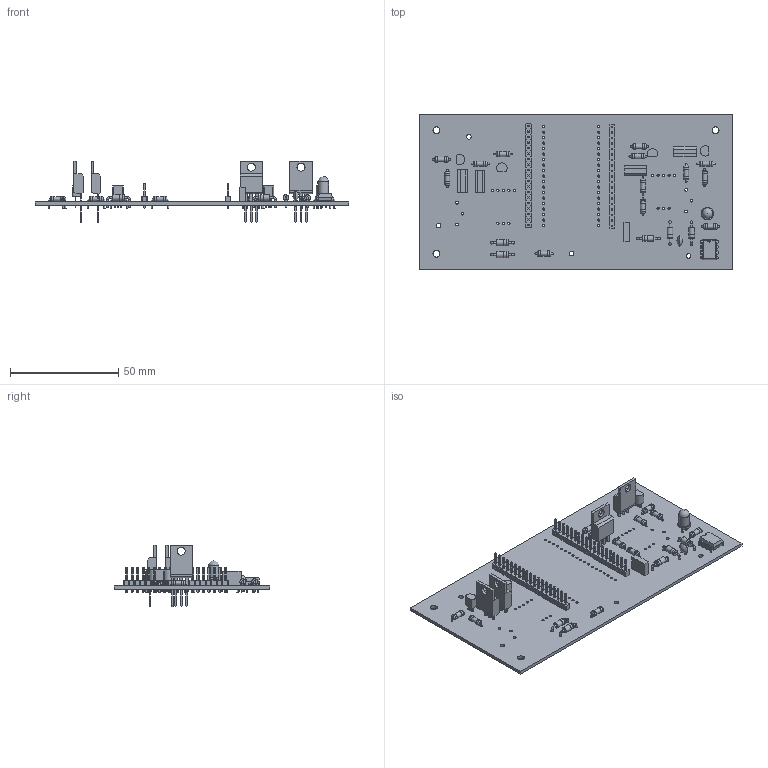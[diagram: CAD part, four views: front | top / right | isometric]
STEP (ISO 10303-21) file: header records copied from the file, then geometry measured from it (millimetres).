
FILE_DESCRIPTION(('KiCad electronic assembly'),'2;1');
FILE_NAME('fuente.step','2026-11-24T16:52:53',('Pcbnew'),('Kicad'), 'Open CASCADE STEP processor 7.9','KiCad to STEP converter','Unknown' );
FILE_SCHEMA(('AUTOMOTIVE_DESIGN { 1 0 10303 214 1 1 1 1 }'));
Length unit declared in the file: millimetre
Products named in the file (20): fuente 1; R_Axial_DIN0207_L6.3mm_D2.5mm_P7.62mm_Horizontal; R_Axial_DIN0207_L63mm_D25mm_P762mm_Horizontal; TO-220-3_Vertical; LED_D5.0mm; TO-92_Inline; TO-92_Inline_Narrow; PinHeader_1x19_P2.54mm_Vertical; PinHeader_1x19_P254mm_Vertical; D_DO-41_SOD81_P10.16mm_Horizontal; C_Disc_D5.0mm_W2.5mm_P2.50mm; C_Disc_D50mm_W25mm_P250mm; R_Box_L8.4mm_W2.5mm_P5.08mm; R_Box_L84mm_W25mm_P508mm; DIP-8_W7.62mm; fuente_PCB
Assembly tree (42 placements, depth 3):
  fuente 1
    R_Axial_DIN0207_L6.3mm_D2.5mm_P7.62mm_Horizontal  x13
      R_Axial_DIN0207_L63mm_D25mm_P762mm_Horizontal
    TO-220-3_Vertical  x4
      TO-220-3_Vertical
    LED_D5.0mm
      LED_D5.0mm
    TO-92_Inline  x4
      TO-92_Inline_Narrow
    PinHeader_1x19_P2.54mm_Vertical  x2
      PinHeader_1x19_P254mm_Vertical
    D_DO-41_SOD81_P10.16mm_Horizontal  x5
      D_DO-41_SOD81_P10.16mm_Horizontal
    C_Disc_D5.0mm_W2.5mm_P2.50mm
      C_Disc_D50mm_W25mm_P250mm
    R_Box_L8.4mm_W2.5mm_P5.08mm
      R_Box_L84mm_W25mm_P508mm
    DIP-8_W7.62mm
      DIP-8_W7.62mm
    fuente_PCB
Bounding box: 145 x 72 x 28.52 mm (x, y, z)
Volume: 19585.8 mm3; surface area: 28947.9 mm2
Topology: 33 solids, 33 shells, 1823 faces, 4365 edges, 2770 vertices
Faces by surface type: plane 1428, cylinder 310, torus 62, bspline 20, sphere 3
Full cylindrical faces by diameter (mm): 0.5 x2, 0.6 x28, 0.75 x12, 0.8 x58, 0.9 x2, 1 x54, 1.02 x38, 1.1 x22, 1.3 x6, 2.15 x4, 2.25 x13, 2.5 x26, 2.7 x10, 2.72 x5, 3.2 x3, 3.735 x4, 4.9 x1
Entity records: 34608 total; most frequent: CARTESIAN_POINT 5717, ORIENTED_EDGE 4692, DIRECTION 4655, EDGE_CURVE 2346, LINE 1873, VECTOR 1873, VERTEX_POINT 1498, AXIS2_PLACEMENT_3D 1391
